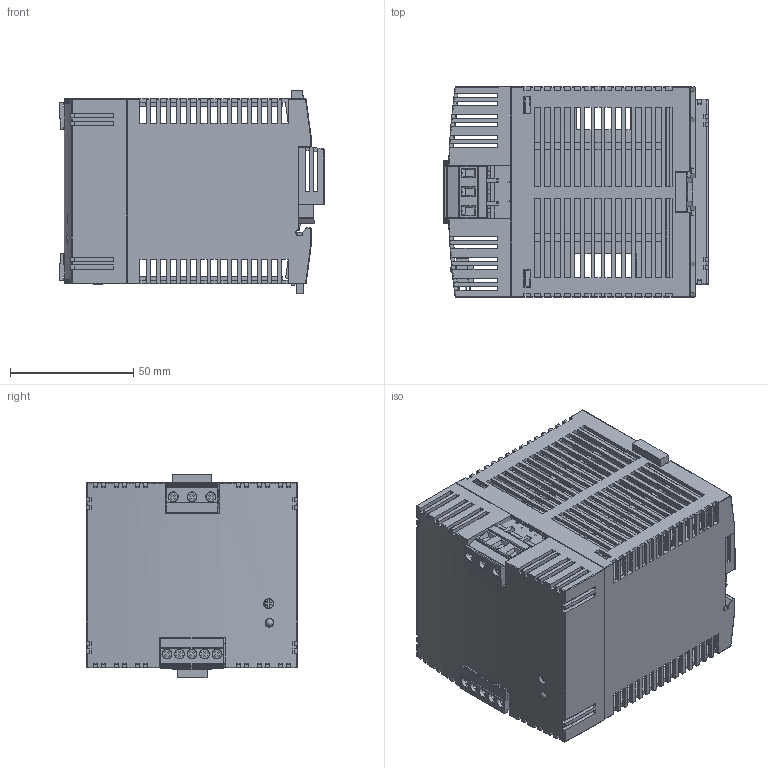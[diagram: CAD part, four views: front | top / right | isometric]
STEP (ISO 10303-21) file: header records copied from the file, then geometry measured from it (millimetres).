
FILE_DESCRIPTION( ( 'Unknown' ), '1' );
FILE_NAME( 'J:/DESBAKUP/3D DATA/TCL/ASSEMBLIES/3D OUTPUT & IMAGES/TCL 120-124.stp', 'Unknown', ( 'Unknown' ), ( 'Unknown' ), 'PSStep 13.0', 'Unknown', ' ' );
FILE_SCHEMA( ( 'AUTOMOTIVE_DESIGN { 1 0 10303 214 1 1 1 1 }' ) );
Length unit declared in the file: millimetre
Products named in the file (16): Assem1; 1912430; 1832536; 1766246-gray; 1923898; 24300145-DINSLIDE; 21500012-LED-G; 22200006-POT; 2460165-CHASSIS; 2460165-HOOD
Bounding box: 107.33 x 85.5 x 82.49 mm (x, y, z)
Volume: 183205.2 mm3; surface area: 203126.6 mm2
Topology: 30 solids, 30 shells, 5332 faces, 15344 edges, 9760 vertices
Faces by surface type: plane 4392, cylinder 658, sphere 166, torus 72, cone 40, bspline 4
Full cylindrical faces by diameter (mm): 0.305 x4, 0.5 x4, 0.508 x6, 3 x2, 3.5 x2, 3.708 x2, 3.861 x2, 4 x2, 5.41 x2, 6.401 x2, 6.502 x2
Entity records: 112539 total; most frequent: CARTESIAN_POINT 17154, ORIENTED_EDGE 15262, DIRECTION 14109, EDGE_CURVE 7631, LINE 6335, VECTOR 6335, VERTEX_POINT 4872, AXIS2_PLACEMENT_3D 3887
